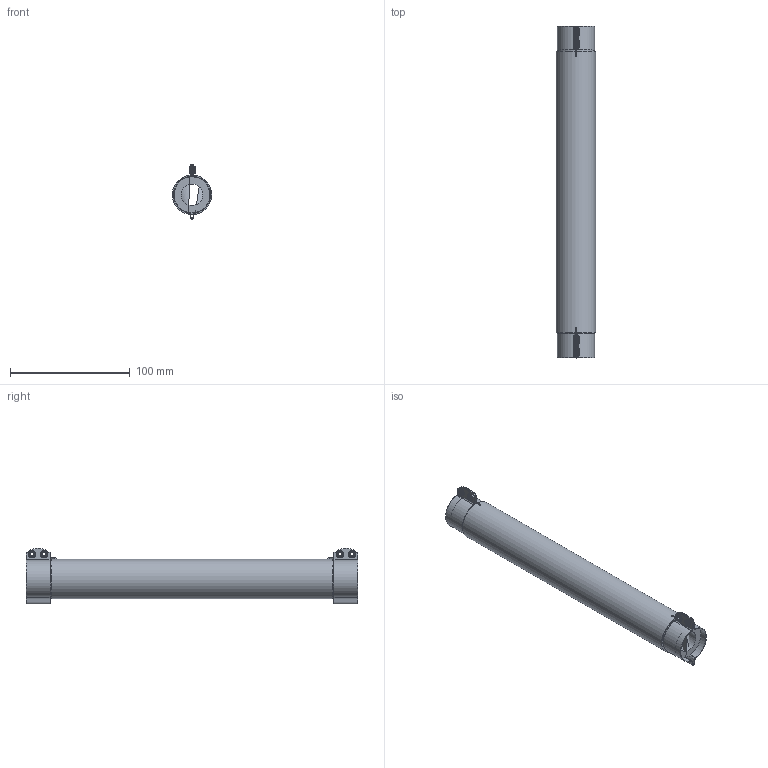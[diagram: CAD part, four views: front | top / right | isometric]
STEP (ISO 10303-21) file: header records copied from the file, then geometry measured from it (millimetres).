
FILE_DESCRIPTION(/* description */ (''),/* implementation_level */ '2;1');
FILE_NAME(/* name */ 'C:\_Vault\Dati\CATALOGO\RC-RS\TF\RS1260.stp',/* time_stamp */ '2014-01-29T14:44:28+01:00',/* author */ ('stefano'),/* organization */ (''),/* preprocessor_version */ 'ST-DEVELOPER v15.2',/* originating_system */ 'Autodesk Inventor 2014',/* authorisation */ '');
FILE_SCHEMA (('AUTOMOTIVE_DESIGN { 1 0 10303 214 3 1 1 }'));
Length unit declared in the file: millimetre
Products named in the file (1): RS1260
Bounding box: 32.97 x 277 x 46.13 mm (x, y, z)
Volume: 150218.2 mm3; surface area: 49917.2 mm2
Topology: 1 solids, 5 shells, 123 faces, 284 edges, 185 vertices
Faces by surface type: cylinder 53, plane 44, torus 18, bspline 8
Full cylindrical faces by diameter (mm): 0.4 x2, 0.8 x4, 3.2 x4, 4.2 x8, 6 x8, 18 x1, 30 x3, 33 x1
Entity records: 3935 total; most frequent: CARTESIAN_POINT 1135, DIRECTION 554, ORIENTED_EDGE 456, AXIS2_PLACEMENT_3D 239, EDGE_CURVE 228, EDGE_LOOP 208, VERTEX_POINT 176, CIRCLE 124
